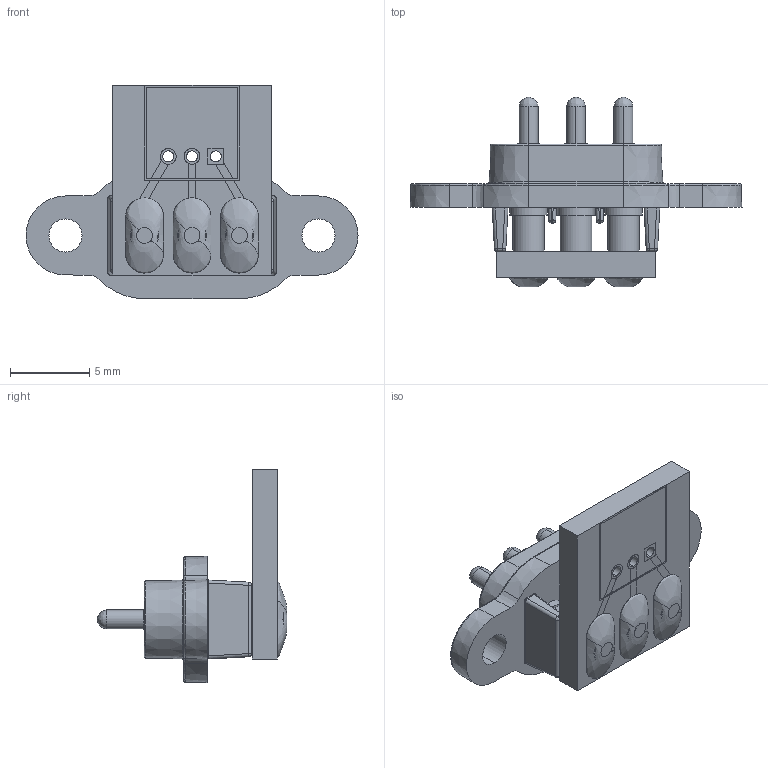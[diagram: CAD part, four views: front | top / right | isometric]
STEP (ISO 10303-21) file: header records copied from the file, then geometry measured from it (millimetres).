
FILE_DESCRIPTION (( 'STEP AP214' ), '1' );
FILE_NAME ('SWIFT DOCK MINI-3P-SC.STEP', '2021-07-28T11:47:49', ( '' ), ( '' ), 'SwSTEP 2.0', 'SolidWorks 2021', '' );
FILE_SCHEMA (( 'AUTOMOTIVE_DESIGN' ));
Length unit declared in the file: millimetre
Products named in the file (6): body_3 hole_mini_1; PCB_3 way_mini_assy_PCB_1; SWIFT DOCK MINI-3P-SC; contact_sd_mini_4; PCB_3 way_mini_3; solder_large_SD mini_7
Assembly tree (9 placements, depth 3):
  SWIFT DOCK MINI-3P-SC
    body_3 hole_mini_1
    contact_sd_mini_4  x3
    PCB_3 way_mini_assy_PCB_1
      PCB_3 way_mini_3
    solder_large_SD mini_7  x3
Bounding box: 21 x 12 x 13.5 mm (x, y, z)
Volume: 550.3 mm3; surface area: 1214.7 mm2
Topology: 8 solids, 11 shells, 402 faces, 892 edges, 534 vertices
Faces by surface type: cylinder 160, plane 139, bspline 61, cone 42
Entity records: 14583 total; most frequent: CARTESIAN_POINT 3961, ORIENTED_EDGE 1468, DIRECTION 1341, EDGE_CURVE 734, AXIS2_PLACEMENT_3D 503, VERTEX_POINT 438, EDGE_LOOP 360, UNCERTAINTY_MEASURE_WITH_UNIT 336
